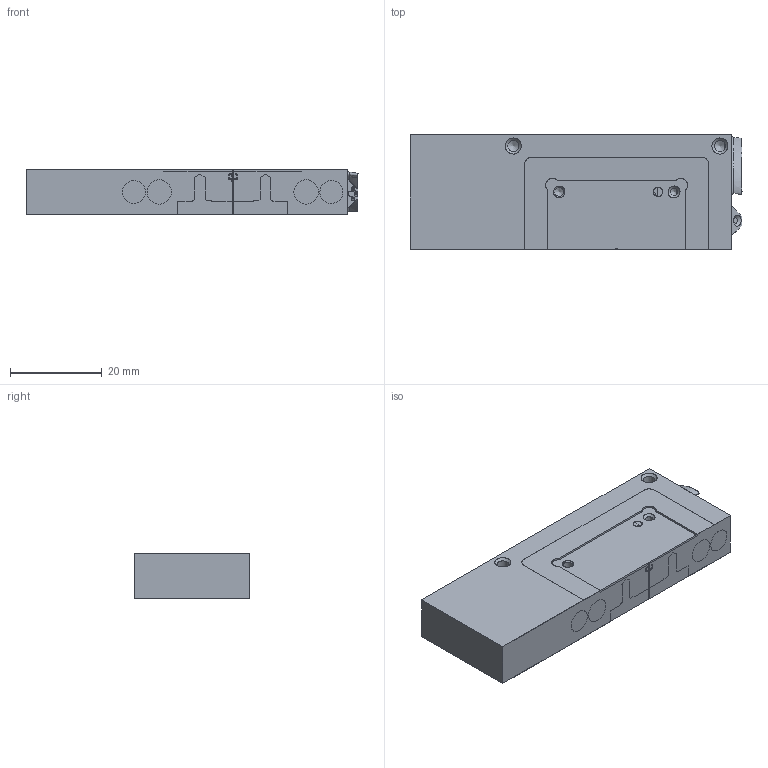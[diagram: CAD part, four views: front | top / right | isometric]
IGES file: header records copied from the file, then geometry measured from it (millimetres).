
Start section: Autodesk Manufacturing Data Exchange Utility2026.0.2.921202
Global section: file name: PieceTest; native system: Autodesk Manufacturing Data Exchange Utility2026.0.2.921202; preprocessor: unknown; author: xmorvan; organization: Unknown; date: 20260327.073544; units: millimetre
Bounding box: 72.3 x 25 x 9.8 mm (x, y, z)
Surface area: 7008.2 mm2 (no closed solid volume)
Topology: 0 solids, 0 shells, 210 faces, 1962 edges, 1914 vertices
Faces by surface type: bspline 210
